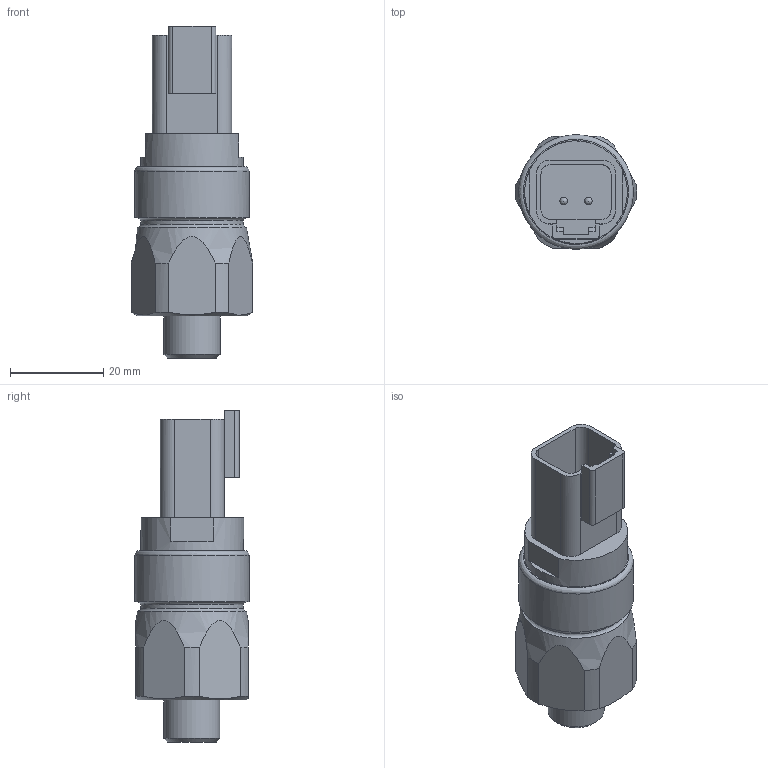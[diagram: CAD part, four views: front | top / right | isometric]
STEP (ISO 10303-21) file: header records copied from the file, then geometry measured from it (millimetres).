
FILE_DESCRIPTION((''),'2;1');
FILE_NAME('U:\Users\a.heinl\DG819_02.stp','2013-05-13T12:50:08',( 'User'),('SDRC'),'I-DEAS Master Series 9','UNIX','Yes');
FILE_SCHEMA(('AUTOMOTIVE_DESIGN { 1 0 10303 214 1 1 1 1 }'));
Length unit declared in the file: millimetre
Products named in the file (1): 28430501(292295)
Bounding box: 26 x 24.5 x 71.1 mm (x, y, z)
Volume: 20561.9 mm3; surface area: 6719.9 mm2
Topology: 1 solids, 1 shells, 74 faces, 196 edges, 128 vertices
Faces by surface type: bspline 74
Entity records: 2370 total; most frequent: CARTESIAN_POINT 1219, ORIENTED_EDGE 388, EDGE_CURVE 194, VERTEX_POINT 128, B_SPLINE_CURVE_WITH_KNOTS 83, EDGE_LOOP 80, FACE_OUTER_BOUND 74, ADVANCED_FACE 74
